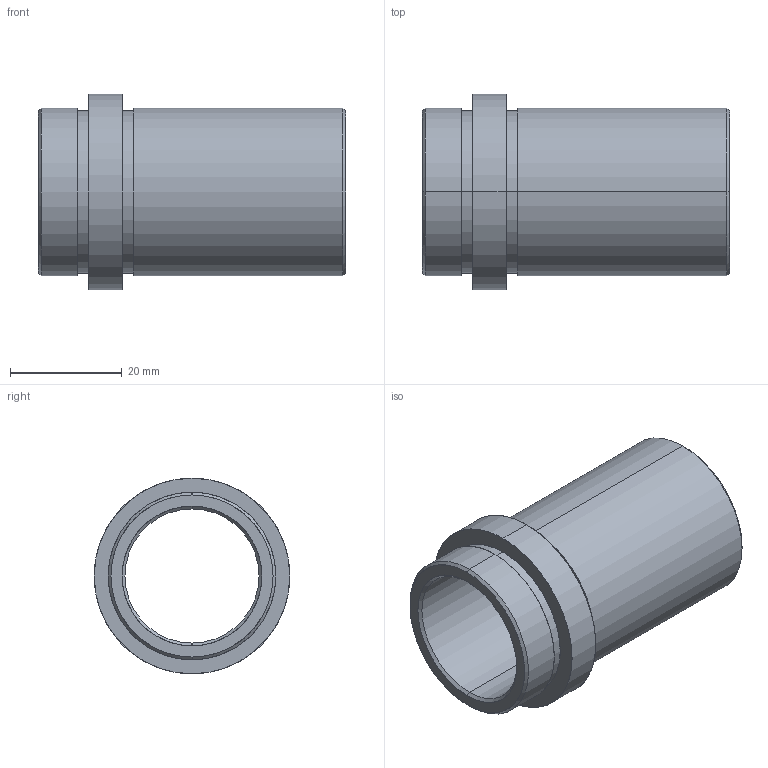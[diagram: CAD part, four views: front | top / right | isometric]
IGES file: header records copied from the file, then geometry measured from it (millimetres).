
Start section: SolidWorks IGES FILE using analytic representation for surfaces
Global section: file name: D:\zzzzz\Delta\D21\24\D21 - 24x46.IGS; native system: SolidWorks 2004 by SolidWorks Corporation; preprocessor: Version 5.3; author: Hkn; date: 080326.192733; units: millimetre
Bounding box: 55 x 35 x 35 mm (x, y, z)
Surface area: 10517.6 mm2 (no closed solid volume)
Topology: 0 solids, 0 shells, 26 faces, 784 edges, 784 vertices
Faces by surface type: revolution 20, bspline 6
